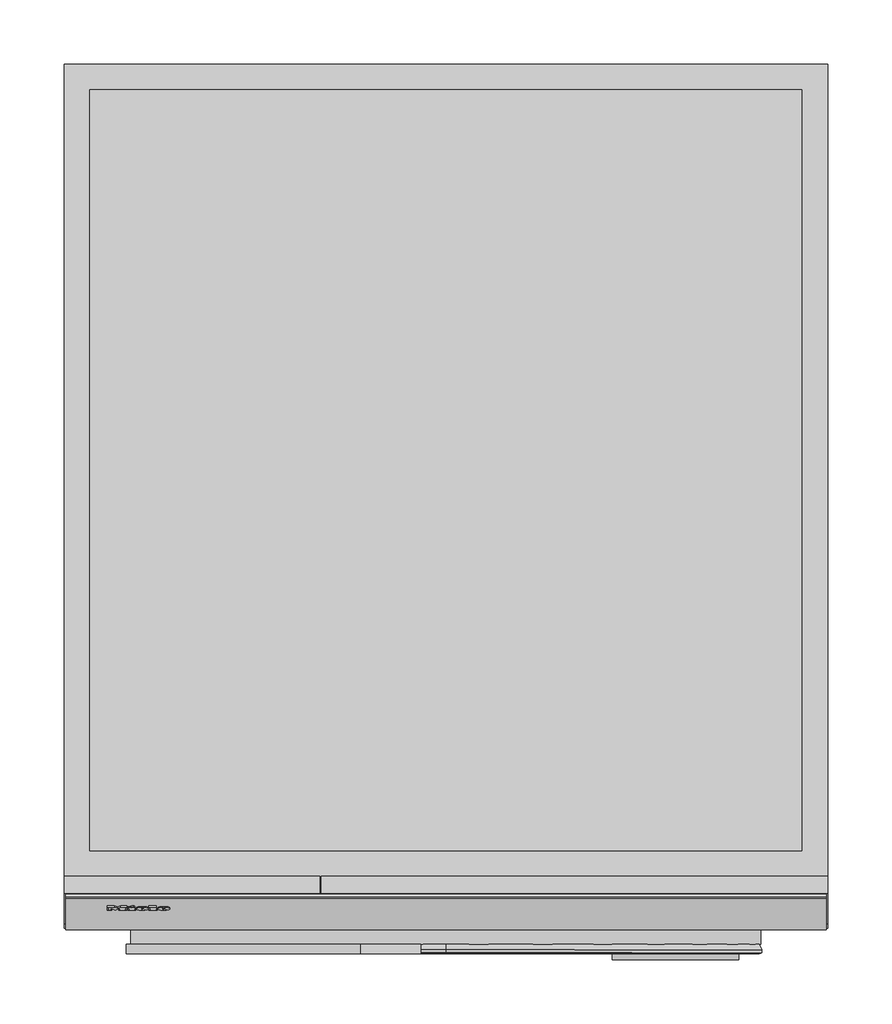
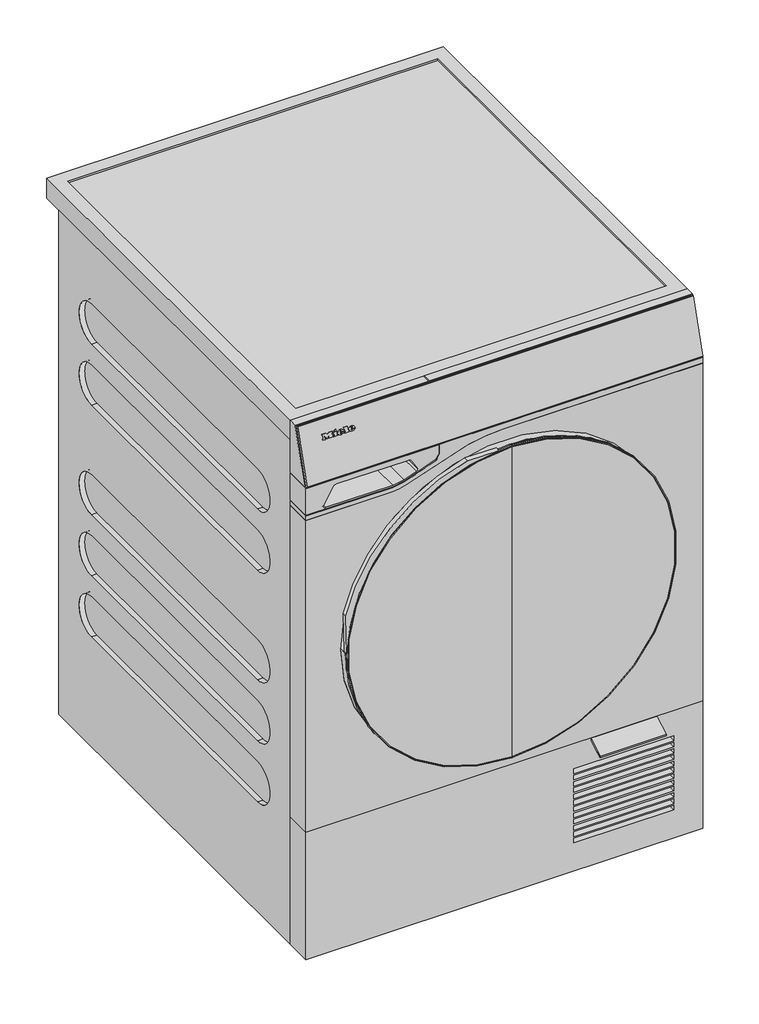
# Not in any storey: 1 proxy.
"""IFC4 building model written with IfcOpenShell, lengths in millimetres."""

from ifc_helpers import new_model, si_unit, origin, place, context, project, spatial, transform, mapped, element, save
from components import specialty_equipment_bc237cf9, specialty_equipment_dc7c71e7

model = new_model("IFC4")

# Units and contexts
model_context = context("Model", 3, world=origin())
ifc_project = project(units=[si_unit("LENGTHUNIT", "METRE", prefix="MILLI")], contexts=[model_context])

# Site, building
site = spatial("IfcSite", under=ifc_project)
building = spatial("IfcBuilding", under=site)

# Proxy
placement = place(None, origin())
specialty_equipment_shape = specialty_equipment_bc237cf9(model_context)
specialty_equipment_2_shape = specialty_equipment_dc7c71e7(model_context)
element("IfcBuildingElementProxy", 1, Name="12697800_I_WQ1200WPS_LW : 11Q12002_I_12697800_WQ1200WPS_LW", ObjectType="12697800_I_WQ1200WPS_LW : 11Q12002_I_12697800_WQ1200WPS_LW", at=placement, inside=building, context=model_context, shape_type="MappedRepresentation", body=[
    mapped(specialty_equipment_shape, transform((0.0, 0.0, 0.0), x_axis=(1.0, 0.0, 0.0), y_axis=(0.0, 1.0, 0.0), z_axis=(0.0, 0.0, 1.0))),
    mapped(specialty_equipment_2_shape, transform((0.0, 0.0, 0.0), x_axis=(1.0, 0.0, 0.0), y_axis=(0.0, 1.0, 0.0), z_axis=(0.0, 0.0, 1.0))),
])

save(model, "model.ifc")
